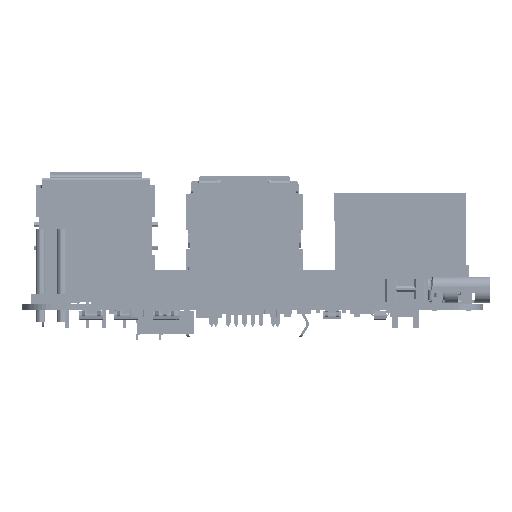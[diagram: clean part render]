
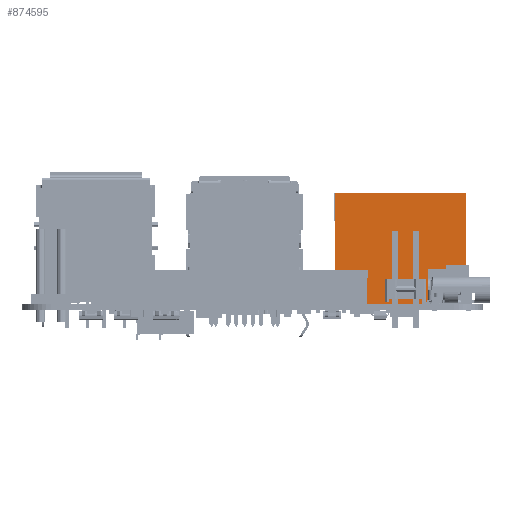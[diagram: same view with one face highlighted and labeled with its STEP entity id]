
A CAD part, left-side view. The second image highlights one B-rep face of the part: STEP entity #874595.
In plain terms, the highlighted planar face has unit normal (-1, 0, 0).
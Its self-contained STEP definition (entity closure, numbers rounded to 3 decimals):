
#874595 = ADVANCED_FACE('',(#874596),#874610,.T.);
#874596 = FACE_BOUND('',#874597,.T.);
#874597 = EDGE_LOOP('',(#874598,#874633,#874661,#874689));
#874598 = ORIENTED_EDGE('',*,*,#874599,.T.);
#874599 = EDGE_CURVE('',#874600,#874602,#874604,.T.);
#874600 = VERTEX_POINT('',#874601);
#874601 = CARTESIAN_POINT('',(-10.732,-7.976,0.));
#874602 = VERTEX_POINT('',#874603);
#874603 = CARTESIAN_POINT('',(-10.732,-7.976,13.4));
#874604 = SURFACE_CURVE('',#874605,(#874609,#874621),.PCURVE_S1.);
#874605 = LINE('',#874606,#874607);
#874606 = CARTESIAN_POINT('',(-10.732,-7.976,0.));
#874607 = VECTOR('',#874608,1.);
#874608 = DIRECTION('',(0.,0.,1.));
#874609 = PCURVE('',#874610,#874615);
#874610 = PLANE('',#874611);
#874611 = AXIS2_PLACEMENT_3D('',#874612,#874613,#874614);
#874612 = CARTESIAN_POINT('',(-10.732,-7.976,0.));
#874613 = DIRECTION('',(-1.,0.,0.));
#874614 = DIRECTION('',(0.,1.,0.));
#874615 = DEFINITIONAL_REPRESENTATION('',(#874616),#874620);
#874616 = LINE('',#874617,#874618);
#874617 = CARTESIAN_POINT('',(0.,0.));
#874618 = VECTOR('',#874619,1.);
#874619 = DIRECTION('',(0.,-1.));
#874620 = ( GEOMETRIC_REPRESENTATION_CONTEXT(2) 
PARAMETRIC_REPRESENTATION_CONTEXT() REPRESENTATION_CONTEXT('2D SPACE',''
  ) );
#874621 = PCURVE('',#874622,#874627);
#874622 = PLANE('',#874623);
#874623 = AXIS2_PLACEMENT_3D('',#874624,#874625,#874626);
#874624 = CARTESIAN_POINT('',(10.732,-7.976,0.));
#874625 = DIRECTION('',(0.,-1.,0.));
#874626 = DIRECTION('',(-1.,0.,0.));
#874627 = DEFINITIONAL_REPRESENTATION('',(#874628),#874632);
#874628 = LINE('',#874629,#874630);
#874629 = CARTESIAN_POINT('',(21.463,0.));
#874630 = VECTOR('',#874631,1.);
#874631 = DIRECTION('',(0.,-1.));
#874632 = ( GEOMETRIC_REPRESENTATION_CONTEXT(2) 
PARAMETRIC_REPRESENTATION_CONTEXT() REPRESENTATION_CONTEXT('2D SPACE',''
  ) );
#874633 = ORIENTED_EDGE('',*,*,#874634,.T.);
#874634 = EDGE_CURVE('',#874602,#874635,#874637,.T.);
#874635 = VERTEX_POINT('',#874636);
#874636 = CARTESIAN_POINT('',(-10.732,7.976,13.4));
#874637 = SURFACE_CURVE('',#874638,(#874642,#874649),.PCURVE_S1.);
#874638 = LINE('',#874639,#874640);
#874639 = CARTESIAN_POINT('',(-10.732,-7.976,13.4));
#874640 = VECTOR('',#874641,1.);
#874641 = DIRECTION('',(0.,1.,0.));
#874642 = PCURVE('',#874610,#874643);
#874643 = DEFINITIONAL_REPRESENTATION('',(#874644),#874648);
#874644 = LINE('',#874645,#874646);
#874645 = CARTESIAN_POINT('',(0.,-13.4));
#874646 = VECTOR('',#874647,1.);
#874647 = DIRECTION('',(1.,0.));
#874648 = ( GEOMETRIC_REPRESENTATION_CONTEXT(2) 
PARAMETRIC_REPRESENTATION_CONTEXT() REPRESENTATION_CONTEXT('2D SPACE',''
  ) );
#874649 = PCURVE('',#874650,#874655);
#874650 = PLANE('',#874651);
#874651 = AXIS2_PLACEMENT_3D('',#874652,#874653,#874654);
#874652 = CARTESIAN_POINT('',(-10.732,-7.976,13.4));
#874653 = DIRECTION('',(0.,0.,1.));
#874654 = DIRECTION('',(1.,0.,0.));
#874655 = DEFINITIONAL_REPRESENTATION('',(#874656),#874660);
#874656 = LINE('',#874657,#874658);
#874657 = CARTESIAN_POINT('',(0.,0.));
#874658 = VECTOR('',#874659,1.);
#874659 = DIRECTION('',(0.,1.));
#874660 = ( GEOMETRIC_REPRESENTATION_CONTEXT(2) 
PARAMETRIC_REPRESENTATION_CONTEXT() REPRESENTATION_CONTEXT('2D SPACE',''
  ) );
#874661 = ORIENTED_EDGE('',*,*,#874662,.F.);
#874662 = EDGE_CURVE('',#874663,#874635,#874665,.T.);
#874663 = VERTEX_POINT('',#874664);
#874664 = CARTESIAN_POINT('',(-10.732,7.976,0.));
#874665 = SURFACE_CURVE('',#874666,(#874670,#874677),.PCURVE_S1.);
#874666 = LINE('',#874667,#874668);
#874667 = CARTESIAN_POINT('',(-10.732,7.976,0.));
#874668 = VECTOR('',#874669,1.);
#874669 = DIRECTION('',(0.,0.,1.));
#874670 = PCURVE('',#874610,#874671);
#874671 = DEFINITIONAL_REPRESENTATION('',(#874672),#874676);
#874672 = LINE('',#874673,#874674);
#874673 = CARTESIAN_POINT('',(15.951,0.));
#874674 = VECTOR('',#874675,1.);
#874675 = DIRECTION('',(0.,-1.));
#874676 = ( GEOMETRIC_REPRESENTATION_CONTEXT(2) 
PARAMETRIC_REPRESENTATION_CONTEXT() REPRESENTATION_CONTEXT('2D SPACE',''
  ) );
#874677 = PCURVE('',#874678,#874683);
#874678 = PLANE('',#874679);
#874679 = AXIS2_PLACEMENT_3D('',#874680,#874681,#874682);
#874680 = CARTESIAN_POINT('',(-10.732,7.976,0.));
#874681 = DIRECTION('',(0.,1.,0.));
#874682 = DIRECTION('',(1.,0.,0.));
#874683 = DEFINITIONAL_REPRESENTATION('',(#874684),#874688);
#874684 = LINE('',#874685,#874686);
#874685 = CARTESIAN_POINT('',(0.,0.));
#874686 = VECTOR('',#874687,1.);
#874687 = DIRECTION('',(0.,-1.));
#874688 = ( GEOMETRIC_REPRESENTATION_CONTEXT(2) 
PARAMETRIC_REPRESENTATION_CONTEXT() REPRESENTATION_CONTEXT('2D SPACE',''
  ) );
#874689 = ORIENTED_EDGE('',*,*,#874690,.F.);
#874690 = EDGE_CURVE('',#874600,#874663,#874691,.T.);
#874691 = SURFACE_CURVE('',#874692,(#874696,#874703),.PCURVE_S1.);
#874692 = LINE('',#874693,#874694);
#874693 = CARTESIAN_POINT('',(-10.732,-7.976,0.));
#874694 = VECTOR('',#874695,1.);
#874695 = DIRECTION('',(0.,1.,0.));
#874696 = PCURVE('',#874610,#874697);
#874697 = DEFINITIONAL_REPRESENTATION('',(#874698),#874702);
#874698 = LINE('',#874699,#874700);
#874699 = CARTESIAN_POINT('',(0.,0.));
#874700 = VECTOR('',#874701,1.);
#874701 = DIRECTION('',(1.,0.));
#874702 = ( GEOMETRIC_REPRESENTATION_CONTEXT(2) 
PARAMETRIC_REPRESENTATION_CONTEXT() REPRESENTATION_CONTEXT('2D SPACE',''
  ) );
#874703 = PCURVE('',#874704,#874709);
#874704 = PLANE('',#874705);
#874705 = AXIS2_PLACEMENT_3D('',#874706,#874707,#874708);
#874706 = CARTESIAN_POINT('',(-10.732,-7.976,0.));
#874707 = DIRECTION('',(0.,0.,1.));
#874708 = DIRECTION('',(1.,0.,0.));
#874709 = DEFINITIONAL_REPRESENTATION('',(#874710),#874714);
#874710 = LINE('',#874711,#874712);
#874711 = CARTESIAN_POINT('',(0.,0.));
#874712 = VECTOR('',#874713,1.);
#874713 = DIRECTION('',(0.,1.));
#874714 = ( GEOMETRIC_REPRESENTATION_CONTEXT(2) 
PARAMETRIC_REPRESENTATION_CONTEXT() REPRESENTATION_CONTEXT('2D SPACE',''
  ) );
